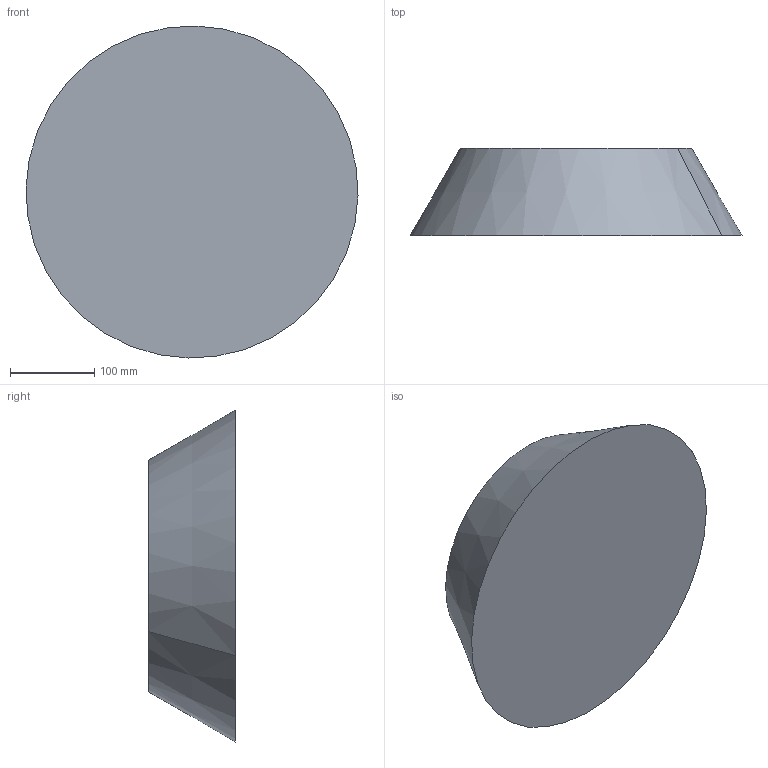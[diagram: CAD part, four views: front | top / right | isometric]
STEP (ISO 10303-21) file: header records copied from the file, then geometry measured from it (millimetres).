
FILE_DESCRIPTION(('CATIA V5 STEP Exchange'),'2;1');
FILE_NAME('C:\_Andres\UNIVERSIDAD\IQS\ASIGNATURAS\DAO\EXF\EXF-16172c\2inicio\Beteta_Pozo_Ej09_v3.stp','2017-03-05T22:13:09+00:00',('none'),('none'),'CATIA Version 5-6 Release 2014 SP1 HF18','CATIA V5 STEP AP203','none');
FILE_SCHEMA(('CONFIG_CONTROL_DESIGN'));
Length unit declared in the file: millimetre
Products named in the file (1): Beteta_Pozo_Ej09_v3
Bounding box: 393.89 x 103 x 393.89 mm (x, y, z)
Volume: 9140761.1 mm3; surface area: 308541.1 mm2
Topology: 1 solids, 2 shells, 8 faces, 12 edges, 8 vertices
Faces by surface type: plane 4, cone 2, cylinder 2
Entity records: 205 total; most frequent: CARTESIAN_POINT 27, DIRECTION 24, ORIENTED_EDGE 24, AXIS2_PLACEMENT_3D 15, EDGE_CURVE 12, ADVANCED_FACE 8, CIRCLE 8, EDGE_LOOP 8
